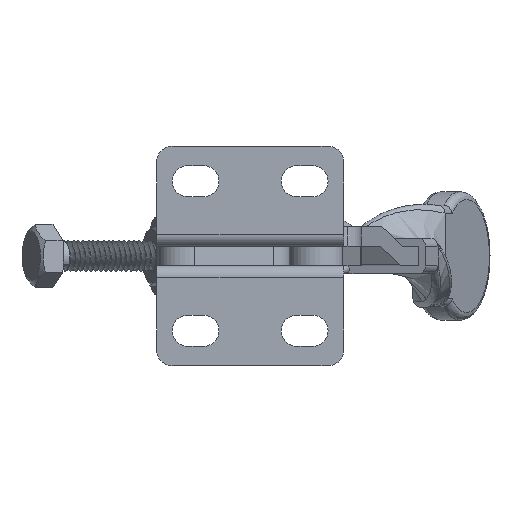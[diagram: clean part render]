
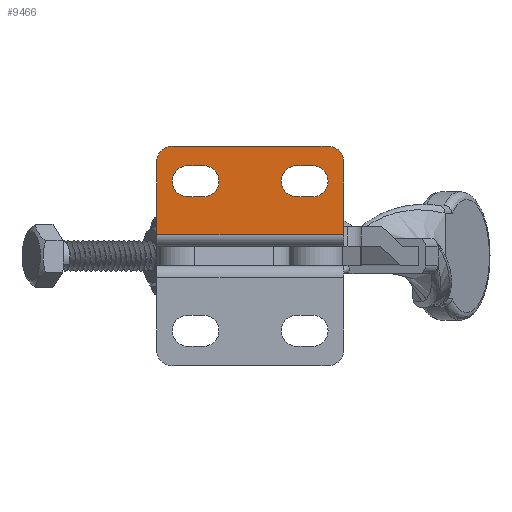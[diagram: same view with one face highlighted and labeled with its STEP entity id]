
A CAD part, front view. The second image highlights one B-rep face of the part: STEP entity #9466.
In plain terms, the highlighted planar face has unit normal (0, -1, 0).
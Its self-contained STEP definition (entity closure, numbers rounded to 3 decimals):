
#177=FACE_BOUND('',#1741,.T.);
#178=FACE_BOUND('',#1742,.T.);
#273=PLANE('',#10258);
#1202=FACE_OUTER_BOUND('',#1740,.T.);
#1740=EDGE_LOOP('',(#7187,#7188,#7189,#7190,#7191,#7192));
#1741=EDGE_LOOP('',(#7193,#7194,#7195,#7196));
#1742=EDGE_LOOP('',(#7197,#7198,#7199,#7200));
#2380=LINE('',#27837,#3162);
#2389=LINE('',#27857,#3171);
#2392=LINE('',#27866,#3174);
#2393=LINE('',#27868,#3175);
#2394=LINE('',#27870,#3176);
#2395=LINE('',#27872,#3177);
#2396=LINE('',#27875,#3178);
#2397=LINE('',#27878,#3179);
#3162=VECTOR('',#11201,1000.);
#3171=VECTOR('',#11228,1000.);
#3174=VECTOR('',#11237,1000.);
#3175=VECTOR('',#11240,1000.);
#3176=VECTOR('',#11241,1000.);
#3177=VECTOR('',#11242,1000.);
#3178=VECTOR('',#11245,1000.);
#3179=VECTOR('',#11248,1000.);
#3812=CIRCLE('',#10222,2.);
#3814=CIRCLE('',#10225,2.);
#3834=CIRCLE('',#10259,2.);
#3835=CIRCLE('',#10260,2.);
#3836=CIRCLE('',#10261,2.);
#3837=CIRCLE('',#10262,2.);
#4164=VERTEX_POINT('',#27076);
#4165=VERTEX_POINT('',#27077);
#4168=VERTEX_POINT('',#27085);
#4169=VERTEX_POINT('',#27086);
#4258=VERTEX_POINT('',#27834);
#4259=VERTEX_POINT('',#27836);
#4260=VERTEX_POINT('',#27855);
#4261=VERTEX_POINT('',#27856);
#4263=VERTEX_POINT('',#27863);
#4264=VERTEX_POINT('',#27865);
#4265=VERTEX_POINT('',#27869);
#4266=VERTEX_POINT('',#27871);
#4267=VERTEX_POINT('',#27874);
#4268=VERTEX_POINT('',#27876);
#5252=EDGE_CURVE('',#4164,#4165,#3812,.T.);
#5256=EDGE_CURVE('',#4168,#4169,#3814,.T.);
#5349=EDGE_CURVE('',#4258,#4259,#2380,.T.);
#5359=EDGE_CURVE('',#4260,#4261,#2389,.T.);
#5363=EDGE_CURVE('',#4258,#4263,#3834,.T.);
#5364=EDGE_CURVE('',#4264,#4263,#2392,.T.);
#5365=EDGE_CURVE('',#4264,#4260,#3835,.T.);
#5366=EDGE_CURVE('',#4261,#4259,#2393,.T.);
#5367=EDGE_CURVE('',#4265,#4164,#2394,.T.);
#5368=EDGE_CURVE('',#4165,#4266,#2395,.T.);
#5369=EDGE_CURVE('',#4266,#4265,#3836,.T.);
#5370=EDGE_CURVE('',#4169,#4267,#2396,.T.);
#5371=EDGE_CURVE('',#4267,#4268,#3837,.T.);
#5372=EDGE_CURVE('',#4268,#4168,#2397,.T.);
#7187=ORIENTED_EDGE('',*,*,#5349,.F.);
#7188=ORIENTED_EDGE('',*,*,#5363,.T.);
#7189=ORIENTED_EDGE('',*,*,#5364,.F.);
#7190=ORIENTED_EDGE('',*,*,#5365,.T.);
#7191=ORIENTED_EDGE('',*,*,#5359,.T.);
#7192=ORIENTED_EDGE('',*,*,#5366,.T.);
#7193=ORIENTED_EDGE('',*,*,#5367,.T.);
#7194=ORIENTED_EDGE('',*,*,#5252,.T.);
#7195=ORIENTED_EDGE('',*,*,#5368,.T.);
#7196=ORIENTED_EDGE('',*,*,#5369,.T.);
#7197=ORIENTED_EDGE('',*,*,#5370,.T.);
#7198=ORIENTED_EDGE('',*,*,#5371,.T.);
#7199=ORIENTED_EDGE('',*,*,#5372,.T.);
#7200=ORIENTED_EDGE('',*,*,#5256,.T.);
#9466=ADVANCED_FACE('',(#1202,#177,#178),#273,.F.);
#10222=AXIS2_PLACEMENT_3D('',#27078,#11099,#11100);
#10225=AXIS2_PLACEMENT_3D('',#27087,#11107,#11108);
#10258=AXIS2_PLACEMENT_3D('',#27862,#11233,#11234);
#10259=AXIS2_PLACEMENT_3D('',#27864,#11235,#11236);
#10260=AXIS2_PLACEMENT_3D('',#27867,#11238,#11239);
#10261=AXIS2_PLACEMENT_3D('',#27873,#11243,#11244);
#10262=AXIS2_PLACEMENT_3D('',#27877,#11246,#11247);
#11099=DIRECTION('center_axis',(0.,1.,0.));
#11100=DIRECTION('ref_axis',(-1.,0.,0.));
#11107=DIRECTION('center_axis',(0.,1.,0.));
#11108=DIRECTION('ref_axis',(-1.,0.,0.));
#11201=DIRECTION('',(0.,0.,-1.));
#11228=DIRECTION('',(0.,0.,-1.));
#11233=DIRECTION('center_axis',(0.,1.,0.));
#11234=DIRECTION('ref_axis',(-1.,0.,0.));
#11235=DIRECTION('center_axis',(0.,-1.,0.));
#11236=DIRECTION('ref_axis',(-1.,0.,0.));
#11237=DIRECTION('',(1.,0.,0.));
#11238=DIRECTION('center_axis',(0.,-1.,0.));
#11239=DIRECTION('ref_axis',(-1.,0.,0.));
#11240=DIRECTION('',(1.,0.,0.));
#11241=DIRECTION('',(-1.,0.,0.));
#11242=DIRECTION('',(1.,0.,0.));
#11243=DIRECTION('center_axis',(0.,1.,0.));
#11244=DIRECTION('ref_axis',(-1.,0.,0.));
#11245=DIRECTION('',(1.,0.,0.));
#11246=DIRECTION('center_axis',(0.,1.,0.));
#11247=DIRECTION('ref_axis',(-1.,0.,0.));
#11248=DIRECTION('',(-1.,0.,0.));
#27076=CARTESIAN_POINT('',(-20.,0.,6.35));
#27077=CARTESIAN_POINT('',(-20.,0.,10.35));
#27078=CARTESIAN_POINT('Origin',(-20.,0.,8.35));
#27085=CARTESIAN_POINT('',(-6.,0.,6.35));
#27086=CARTESIAN_POINT('',(-6.,0.,10.35));
#27087=CARTESIAN_POINT('Origin',(-6.,0.,8.35));
#27834=CARTESIAN_POINT('',(0.,0.,10.85));
#27836=CARTESIAN_POINT('',(0.,0.,1.5));
#27837=CARTESIAN_POINT('',(0.,0.,1.5));
#27855=CARTESIAN_POINT('',(-24.,0.,10.85));
#27856=CARTESIAN_POINT('',(-24.,0.,1.5));
#27857=CARTESIAN_POINT('',(-24.,0.,1.5));
#27862=CARTESIAN_POINT('Origin',(0.,0.,1.5));
#27863=CARTESIAN_POINT('',(-2.,0.,12.85));
#27864=CARTESIAN_POINT('Origin',(-2.,0.,10.85));
#27865=CARTESIAN_POINT('',(-22.,0.,12.85));
#27866=CARTESIAN_POINT('',(-24.,0.,12.85));
#27867=CARTESIAN_POINT('Origin',(-22.,0.,10.85));
#27868=CARTESIAN_POINT('',(0.,0.,1.5));
#27869=CARTESIAN_POINT('',(-18.,0.,6.35));
#27870=CARTESIAN_POINT('',(0.,0.,
6.35));
#27871=CARTESIAN_POINT('',(-18.,0.,10.35));
#27872=CARTESIAN_POINT('',(0.,0.,10.35));
#27873=CARTESIAN_POINT('Origin',(-18.,0.,8.35));
#27874=CARTESIAN_POINT('',(-4.,0.,10.35));
#27875=CARTESIAN_POINT('',(0.,0.,
10.35));
#27876=CARTESIAN_POINT('',(-4.,0.,6.35));
#27877=CARTESIAN_POINT('Origin',(-4.,0.,8.35));
#27878=CARTESIAN_POINT('',(0.,0.,6.35));
